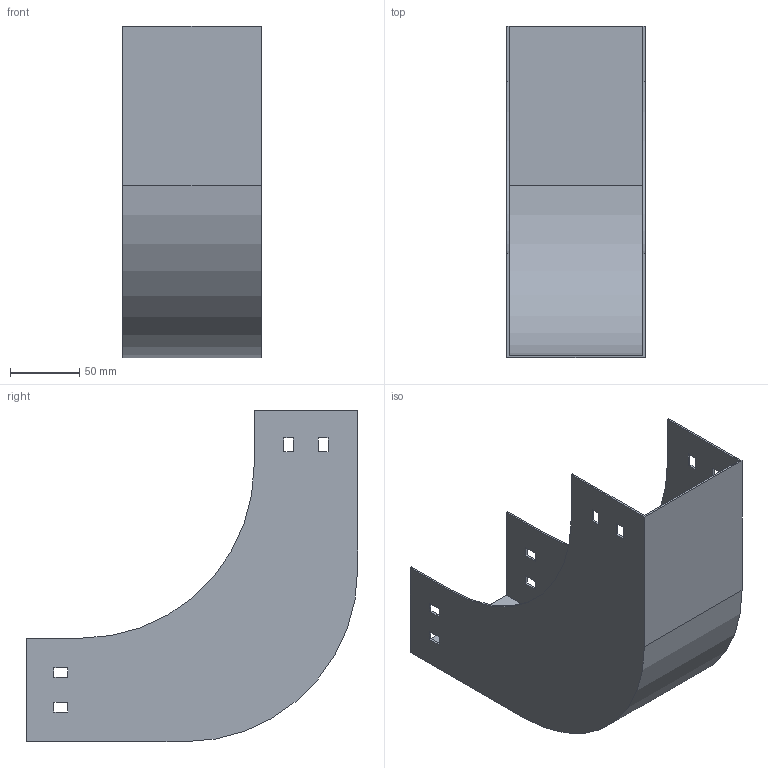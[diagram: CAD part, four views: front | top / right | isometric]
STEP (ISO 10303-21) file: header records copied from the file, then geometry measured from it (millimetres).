
FILE_DESCRIPTION (( 'STEP AP214' ), '1' );
FILE_NAME ('S9_107.step', '2025-07-16T09:27:41', ( '' ), ( '' ), 'SwSTEP 2.0', 'SolidWorks 2023', '' );
FILE_SCHEMA (( 'AUTOMOTIVE_DESIGN' ));
Length unit declared in the file: millimetre
Products named in the file (1): S9_107
Bounding box: 100 x 240 x 240 mm (x, y, z)
Volume: 152147.4 mm3; surface area: 204844.8 mm2
Topology: 1 solids, 1 shells, 50 faces, 144 edges, 96 vertices
Faces by surface type: plane 46, cylinder 4
Entity records: 1671 total; most frequent: CARTESIAN_POINT 291, ORIENTED_EDGE 288, DIRECTION 254, EDGE_CURVE 144, VECTOR 136, LINE 136, VERTEX_POINT 96, EDGE_LOOP 66
